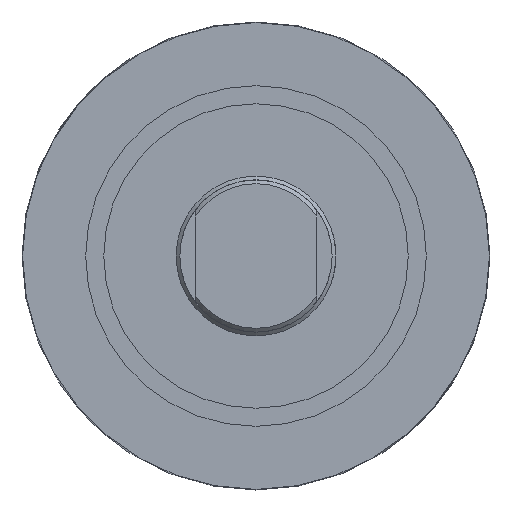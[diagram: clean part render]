
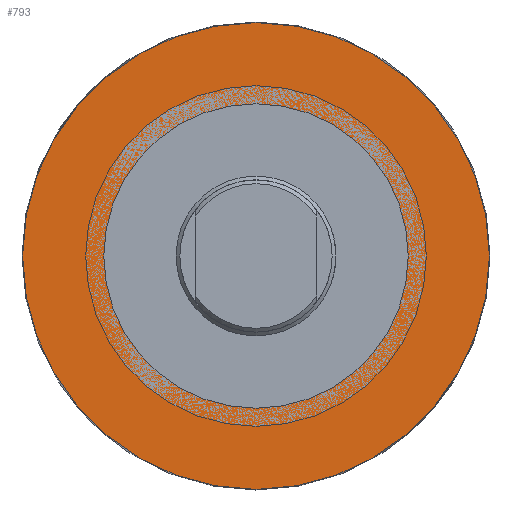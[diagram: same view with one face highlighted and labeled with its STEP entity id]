
A CAD part, left-side view. The second image highlights one B-rep face of the part: STEP entity #793.
In plain terms, the highlighted planar face has unit normal (-1, 0, 0).
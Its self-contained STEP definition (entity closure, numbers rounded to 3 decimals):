
#146=FACE_OUTER_BOUND('',#199,.T.);
#199=EDGE_LOOP('',(#585));
#258=CIRCLE('',#897,61.329);
#335=VERTEX_POINT('',#1415);
#427=EDGE_CURVE('',#335,#335,#258,.T.);
#585=ORIENTED_EDGE('',*,*,#427,.T.);
#699=PLANE('',#896);
#793=ADVANCED_FACE('',(#146),#699,.T.);
#896=AXIS2_PLACEMENT_3D('',#1414,#1083,#1084);
#897=AXIS2_PLACEMENT_3D('',#1416,#1085,#1086);
#1083=DIRECTION('center_axis',(-1.,0.,0.));
#1084=DIRECTION('ref_axis',(0.,0.,1.));
#1085=DIRECTION('center_axis',(-1.,0.,0.));
#1086=DIRECTION('ref_axis',(0.,0.,-1.));
#1414=CARTESIAN_POINT('Origin',(68.434,39.247,0.));
#1415=CARTESIAN_POINT('',(68.434,-13.793,61.329));
#1416=CARTESIAN_POINT('Origin',(68.434,-13.793,0.));
